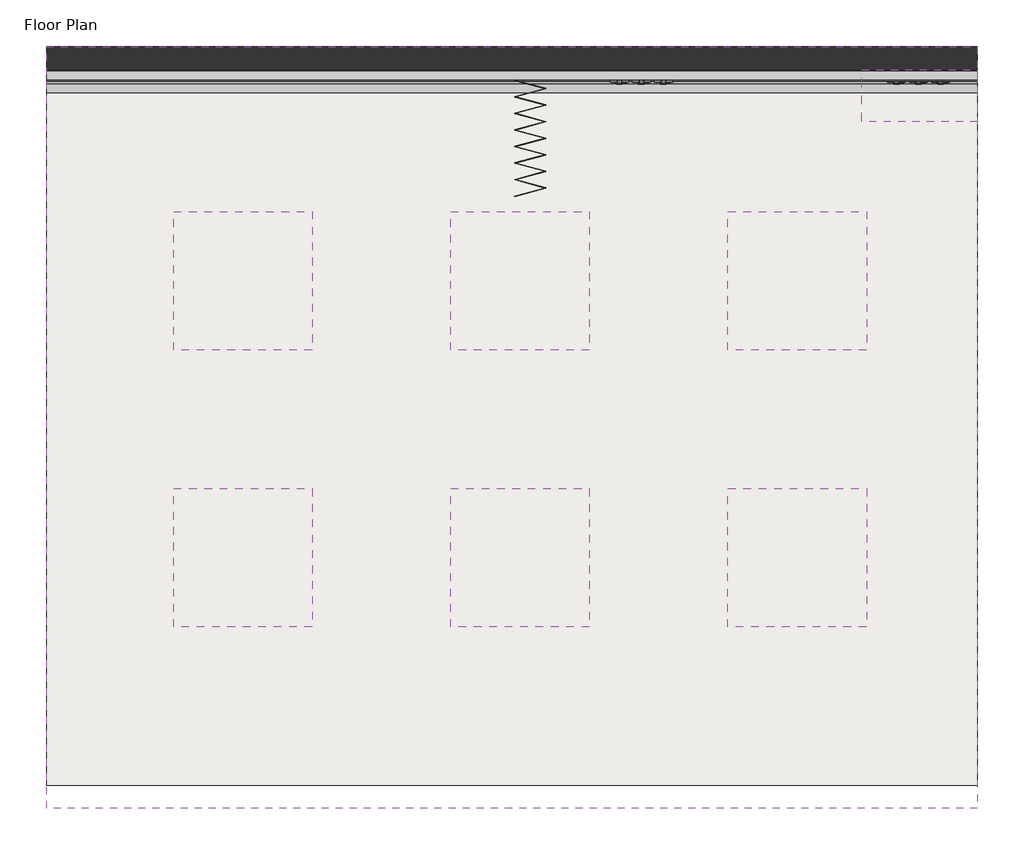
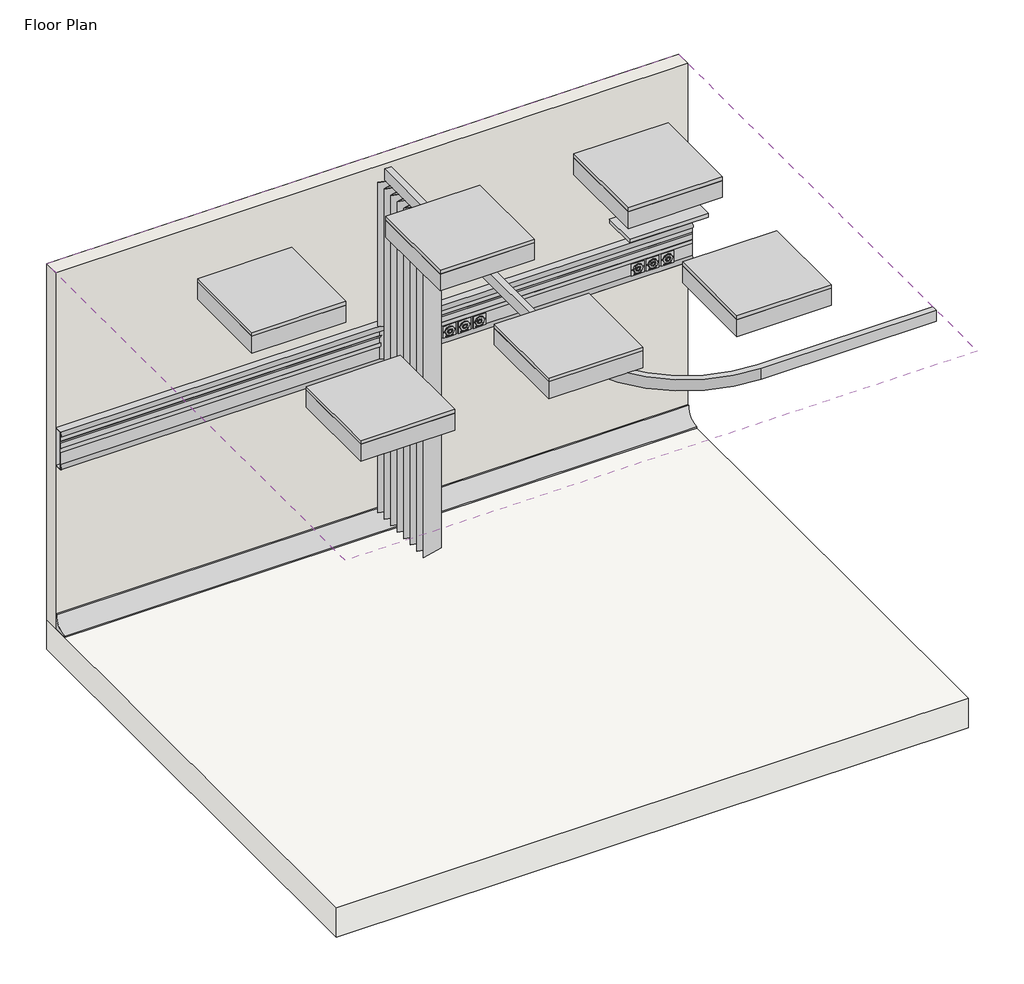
# One storey, incomplete: 9 proxies, 6 light fixtures, 1 covering, 1 furniture element, 1 slab, 1 wall.
"""IFC4 building model written with IfcOpenShell, lengths in millimetres."""

import ifcopenshell
import ifcopenshell.guid

model = None  # the IFC model being written
_history = None  # IfcOwnerHistory: only IFC2X3 demands one
_inside = {}  # id of a spatial element -> (the spatial element, [elements in it])
_under = {}  # id of a project, library or spatial element -> (it, [spatial elements below it])
_declared = {}  # id of a project -> (the project, [libraries it declares])
_typed = {}  # id of a type object -> (the type object, [elements of that type])
_made_of = {}  # id of a material, layer set ... -> (it, [elements and type objects made of it])


def new_model(schema):
    """Start an empty IFC model of exactly this schema.

    Asked for "IFC4X3", IfcOpenShell would pick the latest addendum, in which some entities
    have other attributes; the version numbers below select the first issue.
    IFC2X3 requires an IfcOwnerHistory on every rooted entity: one is made here for all.
    """
    global model, _history
    if schema == "IFC4X3":
        model = ifcopenshell.file(schema_version=(4, 3, 0, 0))
    else:
        model = ifcopenshell.file(schema=schema)
    _inside.clear()
    _under.clear()
    _declared.clear()
    _typed.clear()
    _made_of.clear()
    _history = None
    if model.schema == "IFC2X3":
        org = make("IfcOrganization", Name="unknown")
        user = make(
            "IfcPersonAndOrganization",
            ThePerson=make("IfcPerson", FamilyName="unknown"),
            TheOrganization=org,
        )
        app = make(
            "IfcApplication",
            ApplicationDeveloper=org,
            Version="unknown",
            ApplicationFullName="unknown",
            ApplicationIdentifier="unknown",
        )
        _history = make(
            "IfcOwnerHistory",
            OwningUser=user,
            OwningApplication=app,
            ChangeAction="ADDED",
            CreationDate=0,
        )
    return model


def make(cls, **values):
    """One entity of the class cls with the attributes given. An attribute that is None is left unset."""
    return model.create_entity(
        cls, **{name: value for name, value in values.items() if value is not None}
    )


def rooted(cls, **values):
    """An entity with a GlobalId (a new one), such as an element, a storey or a relation."""
    return make(cls, GlobalId=ifcopenshell.guid.new(), OwnerHistory=_history, **values)


def si_unit(unit_type, name, prefix=None):
    """IfcSIUnit, for example si_unit("LENGTHUNIT", "METRE", prefix="MILLI")."""
    return make("IfcSIUnit", UnitType=unit_type, Prefix=prefix, Name=name)


def assignment(units):
    """IfcUnitAssignment: the units of a project."""
    return None if units is None else make("IfcUnitAssignment", Units=units)


def point(xyz):
    """IfcCartesianPoint."""
    return None if xyz is None else make("IfcCartesianPoint", Coordinates=xyz)


def direction(xyz):
    """IfcDirection."""
    return None if xyz is None else make("IfcDirection", DirectionRatios=xyz)


def frame(location, z_axis=None, x_axis=None):
    """IfcAxis2Placement3D, a coordinate frame: its origin and axes. An axis left out is left unset."""
    return make(
        "IfcAxis2Placement3D",
        Location=point(location),
        Axis=direction(z_axis),
        RefDirection=direction(x_axis),
    )


def frame_2d(location, x_axis=None):
    """IfcAxis2Placement2D, a coordinate frame in the plane: its origin and x axis."""
    return make(
        "IfcAxis2Placement2D", Location=point(location), RefDirection=direction(x_axis)
    )


def origin():
    """The frame at (0, 0, 0) with its axes left unset."""
    return frame((0.0, 0.0, 0.0))


def place(relative_to, where):
    """IfcLocalPlacement: puts the frame where relative to a parent placement (None: the world)."""
    return make(
        "IfcLocalPlacement", PlacementRelTo=relative_to, RelativePlacement=where
    )


def context(
    kind, dimensions, precision=None, world=None, true_north=None, identifier=None
):
    """IfcGeometricRepresentationContext, for example the 3D "Model" context."""
    return make(
        "IfcGeometricRepresentationContext",
        ContextIdentifier=identifier,
        ContextType=kind,
        CoordinateSpaceDimension=dimensions,
        Precision=precision,
        WorldCoordinateSystem=world,
        TrueNorth=true_north,
    )


def project(units=None, contexts=None):
    """IfcProject with its units and contexts."""
    return rooted(
        "IfcProject",
        Name="project",
        RepresentationContexts=contexts,
        UnitsInContext=assignment(units),
    )


def spatial(cls, under=None, at=None, **own):
    """A site, building, storey or space (cls), placed at a placement, below another one or the project."""
    s = rooted(cls, ObjectPlacement=at, **own)
    if under is not None:
        _under.setdefault(under.id(), (under, []))[1].append(s)
    return s


def polyline(points):
    """IfcPolyline through the points."""
    return make("IfcPolyline", Points=[point(p) for p in points])


def circle_curve(where, radius):
    """IfcCircle in the frame where."""
    return make("IfcCircle", Position=where, Radius=radius)


def trimmed(basis, trim1, trim2, sense, master):
    """IfcTrimmedCurve: the piece of a basis curve between two trims."""
    return make(
        "IfcTrimmedCurve",
        BasisCurve=basis,
        Trim1=trim1,
        Trim2=trim2,
        SenseAgreement=sense,
        MasterRepresentation=master,
    )


def segment(curve, same_sense, transition):
    """IfcCompositeCurveSegment."""
    return make(
        "IfcCompositeCurveSegment",
        Transition=transition,
        SameSense=same_sense,
        ParentCurve=curve,
    )


def composite_curve(segments, self_intersect=None):
    """IfcCompositeCurve: segments joined end to end."""
    return make("IfcCompositeCurve", Segments=segments, SelfIntersect=self_intersect)


def outline(outer, holes=None, kind="AREA"):
    """IfcArbitraryClosedProfileDef: a profile drawn as a closed curve; with holes, ...WithVoids."""
    if holes is None:
        return make("IfcArbitraryClosedProfileDef", ProfileType=kind, OuterCurve=outer)
    return make(
        "IfcArbitraryProfileDefWithVoids",
        ProfileType=kind,
        OuterCurve=outer,
        InnerCurves=holes,
    )


def extrude(swept, where, along, depth):
    """IfcExtrudedAreaSolid: the profile swept, set in the frame where, extruded along a direction by depth."""
    return make(
        "IfcExtrudedAreaSolid",
        SweptArea=swept,
        Position=where,
        ExtrudedDirection=direction(along),
        Depth=depth,
    )


def faces_of(points, faces, orient=None, outer=None):
    """IfcFace entities. A face is a list of loops; a loop is a list of indices into points, from 0.

    orient and outer hold one flag for each loop. By default every Orientation is true, the
    first loop of a face is its IfcFaceOuterBound and the others are IfcFaceBound.
    """
    made = []
    for i, loops in enumerate(faces):
        bounds = []
        for j, loop in enumerate(loops):
            is_outer = j == 0 if outer is None else outer[i][j]
            bounds.append(
                make(
                    "IfcFaceOuterBound" if is_outer else "IfcFaceBound",
                    Bound=make("IfcPolyLoop", Polygon=[points[k] for k in loop]),
                    Orientation=True if orient is None else orient[i][j],
                )
            )
        made.append(make("IfcFace", Bounds=bounds))
    return made


def faceted_brep(points, faces, orient=None, outer=None, voids=None):
    """IfcFacetedBrep: a solid bounded by flat faces; with voids (closed shells), ...WithVoids."""
    shared = [point(p) for p in points]
    hull = make("IfcClosedShell", CfsFaces=faces_of(shared, faces, orient, outer))
    if voids is None:
        return make("IfcFacetedBrep", Outer=hull)
    return make(
        "IfcFacetedBrepWithVoids",
        Outer=hull,
        Voids=[
            make(cls, CfsFaces=faces_of(shared, fs, o, b)) for cls, fs, o, b in voids
        ],
    )


def shape(context_of_items, identifier, shape_type, items):
    """IfcShapeRepresentation: the items that make up one representation, for example the "Body"."""
    return make(
        "IfcShapeRepresentation",
        ContextOfItems=context_of_items,
        RepresentationIdentifier=identifier,
        RepresentationType=shape_type,
        Items=items,
    )


def source(mapping_origin, context_of_items, identifier, shape_type, items):
    """IfcRepresentationMap: a shape defined once, which mapped items show again and again."""
    return make(
        "IfcRepresentationMap",
        MappingOrigin=mapping_origin,
        MappedRepresentation=shape(context_of_items, identifier, shape_type, items),
    )


def transform(
    local_origin,
    x_axis=None,
    y_axis=None,
    z_axis=None,
    scale=None,
    scale2=None,
    scale3=None,
    uniform=True,
):
    """IfcCartesianTransformationOperator3D, or its non-uniform kind. x_axis, y_axis, z_axis: its Axis1, 2, 3."""
    if uniform:
        return make(
            "IfcCartesianTransformationOperator3D",
            Axis1=direction(x_axis),
            Axis2=direction(y_axis),
            LocalOrigin=point(local_origin),
            Scale=scale,
            Axis3=direction(z_axis),
        )
    return make(
        "IfcCartesianTransformationOperator3DnonUniform",
        Axis1=direction(x_axis),
        Axis2=direction(y_axis),
        LocalOrigin=point(local_origin),
        Scale=scale,
        Axis3=direction(z_axis),
        Scale2=scale2,
        Scale3=scale3,
    )


def mapped(mapping_source, mapping_target):
    """IfcMappedItem: shows the shape of a source again, moved by a transform."""
    return make(
        "IfcMappedItem", MappingSource=mapping_source, MappingTarget=mapping_target
    )


def made_of(thing, what):
    """Note that an element or type object is made of a material, layer set ...; save() writes the relation."""
    if what is not None:
        _made_of.setdefault(what.id(), (what, []))[1].append(thing)
    return thing


def element(
    cls,
    number,
    at=None,
    inside=None,
    cuts=None,
    type_object=None,
    material=None,
    context=None,
    identifier="Body",
    shape_type=None,
    held_by="IfcProductDefinitionShape",
    body=None,
    shapes=None,
    **own,
):
    """One element of the class cls, such as IfcWall. Its Tag is "e" and its number.

    at: its placement. inside: the storey or other place that contains it. cuts: it is an
    opening in that element (IfcRelVoidsElement). A single representation is given by context,
    identifier, shape_type and body (its items); several are given by shapes. held_by: the class
    of the entity that holds the representations. save() writes the other relations.
    """
    e = rooted(cls, Tag="e%d" % number, ObjectPlacement=at, **own)
    if body is not None:
        shapes = [shape(context, identifier, shape_type, body)]
    if shapes is not None:
        e.Representation = make(held_by, Representations=shapes)
    if inside is not None:
        _inside.setdefault(inside.id(), (inside, []))[1].append(e)
    if cuts is not None:
        rooted(
            "IfcRelVoidsElement", RelatingBuildingElement=cuts, RelatedOpeningElement=e
        )
    if type_object is not None:
        _typed.setdefault(type_object.id(), (type_object, []))[1].append(e)
    return made_of(e, material)


def aggregate(whole, parts):
    """IfcRelAggregates: a whole, such as a stair, and the parts it consists of."""
    return rooted("IfcRelAggregates", RelatingObject=whole, RelatedObjects=parts)


def save(model, path):
    """Write the relations noted so far, then the file.

    IfcRelAggregates (storeys below a building ...), IfcRelContainedInSpatialStructure (elements
    in a storey), IfcRelDefinesByType, IfcRelAssociatesMaterial and IfcRelDeclares: one each for
    every whole, place, type object, material and project.
    """
    for whole, parts in _under.values():
        aggregate(whole, parts)
    for where, things in _inside.values():
        rooted(
            "IfcRelContainedInSpatialStructure",
            RelatedElements=things,
            RelatingStructure=where,
        )
    for kind, things in _typed.values():
        rooted("IfcRelDefinesByType", RelatedObjects=things, RelatingType=kind)
    for what, things in _made_of.values():
        rooted("IfcRelAssociatesMaterial", RelatedObjects=things, RelatingMaterial=what)
    for by, libraries in _declared.values():
        rooted("IfcRelDeclares", RelatingContext=by, RelatedDefinitions=libraries)
    model.write(path)


def generic_models_0edea333(model_context):
    return source(origin(), model_context, "Body", "SweptSolid", [
        extrude(outline(polyline([(4029.4521507, 2.0), (4029.4521507, 0.0), (0.0, 0.0), (0.0, 2.0), (4029.4521507, 2.0)])), frame((0.0, 0.0, 182.5), z_axis=(0.0, 0.0, 1.0), x_axis=(1.0, 0.0, 0.0)), (0.0, 0.0, 1.0), 10.0),
        extrude(outline(polyline([(4029.4521507, 2.0), (4029.4521507, 0.0), (0.0, 0.0), (0.0, 2.0), (4029.4521507, 2.0)])), frame((0.0, 0.0, 117.5483443), z_axis=(0.0, 0.0, 1.0), x_axis=(1.0, 0.0, 0.0)), (0.0, 0.0, 1.0), 25.0),
        extrude(outline(composite_curve([segment(polyline([(0.0, 220.0), (0.0, 255.0)]), True, "CONTINUOUS"), segment(trimmed(circle_curve(frame_2d((-9.7819278, 237.5)), 20.0483443), [point((0.0, 255.0))], [point((0.0, 220.0))], False, "CARTESIAN"), True, "CONTINUOUS")], self_intersect=False)), frame((0.0, 0.0, 0.0), z_axis=(1.0, 0.0, 0.0), x_axis=(0.0, 1.0, 0.0)), (0.0, 0.0, 1.0), 4029.4521507),
        extrude(outline(composite_curve([segment(polyline([(0.0, 0.0), (0.0, 35.0)]), True, "CONTINUOUS"), segment(trimmed(circle_curve(frame_2d((-9.7819278, 17.5)), 20.0483443), [point((0.0, 35.0))], [point((0.0, 0.0))], False, "CARTESIAN"), True, "CONTINUOUS")], self_intersect=False)), frame((0.0, 0.0, 0.0), z_axis=(1.0, 0.0, 0.0), x_axis=(0.0, 1.0, 0.0)), (0.0, 0.0, 1.0), 4029.4521507),
        extrude(outline(polyline([(0.0, 0.0), (-50.0, 0.0), (-50.0, 255.0), (0.0, 255.0), (0.0, 0.0)]), holes=[polyline([(-45.0, 250.0), (-45.0, 5.0), (-5.0, 5.0), (-5.0, 250.0), (-45.0, 250.0)])]), frame((0.0, 0.0, 0.0), z_axis=(1.0, 0.0, 0.0), x_axis=(0.0, 1.0, 0.0)), (0.0, 0.0, 1.0), 4030.0),
    ])


def type_1_1f014aee(model_context):
    return source(origin(), model_context, "Body", "SweptSolid", [
        extrude(outline(polyline([(375.0, 50.0), (-125.0, 50.0), (-125.0, 275.0), (375.0, 275.0), (375.0, 50.0)])), frame((0.0, 0.0, 1500.0), z_axis=(0.0, 0.0, 1.0), x_axis=(1.0, 0.0, 0.0)), (0.0, 0.0, 1.0), 25.0),
    ])


def type_1_e4ce6e86(model_context):
    return source(origin(), model_context, "Body", "SweptSolid", [
        extrude(outline(polyline([(1136.6511743, 148.6914872), (1144.0357897, 148.6914872), (1144.0357897, 145.8735785), (1143.8185421, 144.4934703), (1143.1505733, 143.6785665), (1142.2058618, 143.3837948), (1141.3431815, 143.6316915), (1140.6896358, 144.38079), (1140.0009339, 143.4712347), (1138.8524964, 143.1530256), (1137.8600084, 143.3702732), (1137.1532776, 143.9084343), (1136.7782776, 144.7116194), (1136.6511743, 145.8952131), (1136.6511743, 148.6914872)]), holes=[polyline([(1141.0357897, 147.7684102), (1141.0357897, 146.0827131), (1141.1151166, 145.0983381), (1143.1127127, 146.2107179), (1143.1127127, 147.7684102), (1141.0357897, 147.7684102)]), polyline([(1137.5742512, 147.7684102), (1137.5742512, 145.8753814), (1140.1127127, 145.9655256), (1140.1127127, 147.7684102), (1137.5742512, 147.7684102)])]), frame((0.0, 105.0, 0.0), z_axis=(0.0, 1.0, 0.0), x_axis=(0.0, 0.0, 1.0)), (0.0, 0.0, 1.0), 1.0),
        extrude(outline(polyline([(140.8453333, 106.0), (141.7684102, 106.0), (141.7684102, 105.0), (140.8453333, 105.0), (140.8453333, 106.0)])), frame((0.0, 0.0, 1136.6511743), z_axis=(0.0, 0.0, 1.0), x_axis=(1.0, 0.0, 0.0)), (0.0, 0.0, 1.0), 7.3846154),
        extrude(outline(polyline([(1136.6511743, 138.9991795), (1144.0357897, 138.9991795), (1144.0357897, 137.4162468), (1138.8308618, 135.9018237), (1137.7437223, 135.5953333), (1138.921006, 135.2654054), (1144.0357897, 133.7798285), (1144.0357897, 132.1914872), (1136.6511743, 132.1914872), (1136.6511743, 133.1145641), (1143.1127127, 133.1145641), (1136.6511743, 134.9697323), (1136.6511743, 136.2191314), (1143.1127127, 138.0761025), (1136.6511743, 138.0761025), (1136.6511743, 138.9991795)])), frame((0.0, 105.0, 0.0), z_axis=(0.0, 1.0, 0.0), x_axis=(0.0, 0.0, 1.0)), (0.0, 0.0, 1.0), 1.0),
        extrude(outline(polyline([(1136.6511743, 130.5761025), (1144.0357897, 130.5761025), (1144.0357897, 129.6530256), (1141.0357897, 129.6530256), (1141.0357897, 125.7299487), (1144.0357897, 125.7299487), (1144.0357897, 124.8068718), (1136.6511743, 124.8068718), (1136.6511743, 125.7299487), (1140.1127127, 125.7299487), (1140.1127127, 129.6530256), (1136.6511743, 129.6530256), (1136.6511743, 130.5761025)])), frame((0.0, 105.0, 0.0), z_axis=(0.0, 1.0, 0.0), x_axis=(0.0, 0.0, 1.0)), (0.0, 0.0, 1.0), 1.0),
        extrude(outline(polyline([(1138.2665589, 119.5099968), (1138.1511743, 118.6049487), (1136.9594675, 119.451403), (1136.5357897, 121.0280256), (1137.2668594, 122.944492), (1139.3176406, 123.6530256), (1141.43603, 122.9372804), (1142.1896358, 121.0803093), (1141.4378329, 119.2765232), (1139.3230493, 118.5761025), (1139.0742512, 122.7299487), (1137.8753329, 122.1989992), (1137.4588666, 121.0099968), (1137.6517752, 120.1049487), (1138.2665589, 119.5099968)]), holes=[polyline([(1139.9973281, 122.7299487), (1139.9973281, 119.4991795), (1140.8338666, 119.8687708), (1141.2665589, 121.083915), (1140.9213065, 122.2206338), (1139.9973281, 122.7299487)])]), frame((0.0, 105.0, 0.0), z_axis=(0.0, 1.0, 0.0), x_axis=(0.0, 0.0, 1.0)), (0.0, 0.0, 1.0), 1.0),
        extrude(outline(polyline([(1136.9973281, 114.0761025), (1136.717881, 115.0866194), (1136.5357897, 116.0755016), (1136.9738906, 117.4159463), (1138.093482, 117.8837948), (1139.795405, 115.7978573), (1140.1127127, 114.1968958), (1141.2665589, 115.4661266), (1141.0889748, 116.4000208), (1140.5742512, 117.7684102), (1141.4756935, 117.3690713), (1142.0039387, 116.5649847), (1142.1896358, 115.3471362), (1142.0255733, 114.2284463), (1140.1794195, 113.2684102), (1139.030982, 113.2684102), (1137.4273161, 113.2215352), (1136.6511743, 113.037641), (1136.9973281, 114.0761025)]), holes=[polyline([(1138.7019555, 114.2672083), (1138.9065829, 115.6806698), (1138.7569435, 116.4748405), (1137.4588666, 115.8789872), (1137.6797199, 114.9450929), (1138.7019555, 114.2672083)])]), frame((0.0, 105.0, 0.0), z_axis=(0.0, 1.0, 0.0), x_axis=(0.0, 0.0, 1.0)), (0.0, 0.0, 1.0), 1.0),
        extrude(outline(polyline([(111.0761025, 106.0), (111.9991795, 106.0), (111.9991795, 105.0), (111.0761025, 105.0), (111.0761025, 106.0)])), frame((0.0, 0.0, 1136.6511743), z_axis=(0.0, 0.0, 1.0), x_axis=(1.0, 0.0, 0.0)), (0.0, 0.0, 1.0), 7.3846154),
        extrude(outline(polyline([(1137.7933017, 108.1914872), (1136.624131, 107.6145641), (1136.6890348, 109.0785064), (1138.1385541, 109.5761025), (1141.1511743, 109.5761025), (1142.0742512, 110.2684102), (1143.3921598, 109.5761025), (1143.9348281, 108.6530256), (1142.0742512, 108.6530256), (1142.0742512, 107.7299487), (1141.1511743, 107.7299487), (1141.1511743, 108.6530256), (1137.7933017, 108.1914872)])), frame((0.0, 105.0, 0.0), z_axis=(0.0, 1.0, 0.0), x_axis=(0.0, 0.0, 1.0)), (0.0, 0.0, 1.0), 1.0),
        extrude(outline(polyline([(1136.6511743, 106.8068718), (1144.0357897, 106.8068718), (1144.0357897, 105.8837948), (1141.3206454, 105.8837948), (1142.1896358, 104.2774247), (1141.9525565, 103.240766), (1141.2972079, 102.6115593), (1140.0838666, 102.4222564), (1136.6511743, 102.4222564), (1136.6511743, 103.3453333), (1139.9883137, 103.3453333), (1140.9618714, 103.6392035), (1141.2665589, 104.4721362), (1141.06103, 105.2284463), (1139.5321839, 105.8837948), (1136.6511743, 105.8837948), (1136.6511743, 106.8068718)])), frame((0.0, 105.0, 0.0), z_axis=(0.0, 1.0, 0.0), x_axis=(0.0, 0.0, 1.0)), (0.0, 0.0, 1.0), 1.0),
        extrude(outline(composite_curve([segment(trimmed(circle_curve(frame_2d((1175.0229233, 125.0)), 29.0), [point((1196.3519765, 144.6487021))], [point((1155.3742213, 103.6709469))], False, "CARTESIAN"), True, "CONTINUOUS"), segment(polyline([(1155.3742213, 103.6709469), (1164.2261274, 112.522853)]), True, "CONTINUOUS"), segment(trimmed(circle_curve(frame_2d((1175.0229233, 125.0)), 16.5), [point((1164.2261274, 112.522853))], [point((1187.5000703, 135.7967959))], True, "CARTESIAN"), True, "CONTINUOUS"), segment(polyline([(1187.5000703, 135.7967959), (1196.3519765, 144.6487021)]), True, "CONTINUOUS")], self_intersect=False)), frame((0.0, 110.0, 0.0), z_axis=(0.0, 1.0, 0.0), x_axis=(0.0, 0.0, 1.0)), (0.0, 0.0, 1.0), 1.0),
        extrude(outline(composite_curve([segment(trimmed(circle_curve(frame_2d((1175.0229233, 125.0625)), 12.5), [point((1175.0229233, 137.5625))], [point((1175.0229233, 112.5625))], False, "CARTESIAN"), True, "CONTINUOUS"), segment(trimmed(circle_curve(frame_2d((1175.0229233, 125.0625)), 12.5), [point((1175.0229233, 112.5625))], [point((1175.0229233, 137.5625))], False, "CARTESIAN"), True, "CONTINUOUS")], self_intersect=False), holes=[composite_curve([segment(trimmed(circle_curve(frame_2d((1175.0229233, 125.0625)), 7.5), [point((1175.0229233, 132.5625))], [point((1175.0229233, 117.5625))], True, "CARTESIAN"), True, "CONTINUOUS"), segment(trimmed(circle_curve(frame_2d((1175.0229233, 125.0625)), 7.5), [point((1175.0229233, 117.5625))], [point((1175.0229233, 132.5625))], True, "CARTESIAN"), True, "CONTINUOUS")], self_intersect=False)]), frame((0.0, 95.0, 0.0), z_axis=(0.0, 1.0, 0.0), x_axis=(0.0, 0.0, 1.0)), (0.0, 0.0, 1.0), 17.5),
        extrude(outline(composite_curve([segment(trimmed(circle_curve(frame_2d((1175.0229233, 125.0)), 29.0), [point((1175.0229233, 154.0))], [point((1175.0229233, 96.0))], False, "CARTESIAN"), True, "CONTINUOUS"), segment(trimmed(circle_curve(frame_2d((1175.0229233, 125.0)), 29.0), [point((1175.0229233, 96.0))], [point((1175.0229233, 154.0))], False, "CARTESIAN"), True, "CONTINUOUS")], self_intersect=False), holes=[composite_curve([segment(trimmed(circle_curve(frame_2d((1175.0229233, 125.0)), 16.5), [point((1175.0229233, 141.5))], [point((1175.0229233, 108.5))], True, "CARTESIAN"), True, "CONTINUOUS"), segment(trimmed(circle_curve(frame_2d((1175.0229233, 125.0)), 16.5), [point((1175.0229233, 108.5))], [point((1175.0229233, 141.5))], True, "CARTESIAN"), True, "CONTINUOUS")], self_intersect=False)]), frame((0.0, 95.0, 0.0), z_axis=(0.0, 1.0, 0.0), x_axis=(0.0, 0.0, 1.0)), (0.0, 0.0, 1.0), 15.0),
        extrude(outline(polyline([(1215.0229233, 85.0), (1135.0229233, 85.0), (1135.0229233, 165.0), (1215.0229233, 165.0), (1215.0229233, 85.0)]), holes=[composite_curve([segment(trimmed(circle_curve(frame_2d((1175.0229233, 125.0)), 30.0), [point((1175.0229233, 155.0))], [point((1175.0229233, 95.0))], True, "CARTESIAN"), True, "CONTINUOUS"), segment(trimmed(circle_curve(frame_2d((1175.0229233, 125.0)), 30.0), [point((1175.0229233, 95.0))], [point((1175.0229233, 155.0))], True, "CARTESIAN"), True, "CONTINUOUS")], self_intersect=False), composite_curve([segment(trimmed(circle_curve(frame_2d((1175.0229233, 90.0)), 2.5), [point((1175.0229233, 92.5))], [point((1175.0229233, 87.5))], True, "CARTESIAN"), True, "CONTINUOUS"), segment(trimmed(circle_curve(frame_2d((1175.0229233, 90.0)), 2.5), [point((1175.0229233, 87.5))], [point((1175.0229233, 92.5))], True, "CARTESIAN"), True, "CONTINUOUS")], self_intersect=False), composite_curve([segment(trimmed(circle_curve(frame_2d((1175.0229233, 160.0)), 2.5), [point((1175.0229233, 157.5))], [point((1175.0229233, 162.5))], True, "CARTESIAN"), True, "CONTINUOUS"), segment(trimmed(circle_curve(frame_2d((1175.0229233, 160.0)), 2.5), [point((1175.0229233, 162.5))], [point((1175.0229233, 157.5))], True, "CARTESIAN"), True, "CONTINUOUS")], self_intersect=False)]), frame((0.0, 95.0, 0.0), z_axis=(0.0, 1.0, 0.0), x_axis=(0.0, 0.0, 1.0)), (0.0, 0.0, 1.0), 10.0),
    ])


def furniture_3dd21fbf(model_context):
    return source(origin(), model_context, "Body", "SweptSolid", [
        extrude(outline(composite_curve([segment(trimmed(circle_curve(frame_2d((1860.0, 840.0)), 800.0), [point((1860.0, 40.0))], [point((2660.0, 840.0))], True, "CARTESIAN"), True, "CONTINUOUS"), segment(polyline([(2660.0, 840.0), (2660.0, 1957.2426086), (2700.0, 1957.2426086), (2700.0, 840.0)]), True, "CONTINUOUS"), segment(trimmed(circle_curve(frame_2d((1860.0, 840.0)), 840.0), [point((2700.0, 840.0))], [point((1860.0, 0.0))], False, "CARTESIAN"), True, "CONTINUOUS"), segment(polyline([(1860.0, 0.0), (0.0, 0.0), (0.0, 40.0), (1860.0, 40.0)]), True, "CONTINUOUS")], self_intersect=False)), frame((0.0, 0.0, 2325.0), z_axis=(0.0, 0.0, 1.0), x_axis=(1.0, 0.0, 0.0)), (0.0, 0.0, 1.0), 75.0),
        extrude(outline(polyline([(35.8630189, 88.8426086), (37.9335712, 88.8426086), (72.761314, -41.1362967), (107.5890567, 88.8426086), (109.659609, 88.8426086), (144.4873517, -41.1362967), (179.3150944, 88.8426086), (181.3856468, 88.8426086), (216.2133895, -41.1362967), (251.0411322, 88.8426086), (253.1116846, 88.8426086), (287.9394273, -41.1362967), (322.76717, 88.8426086), (324.8377223, 88.8426086), (359.665465, -41.1362967), (394.4932078, 88.8426086), (396.5637601, 88.8426086), (431.3915028, -41.1362967), (466.2192455, 88.8426086), (468.2897979, 88.8426086), (504.1528168, -45.0), (502.2209651, -45.5176381), (467.2545217, 84.9789053), (432.426779, -45.0), (430.3562266, -45.0), (395.5284839, 84.9789053), (360.7007412, -45.0), (358.6301889, -45.0), (323.8024462, 84.9789053), (288.9747035, -45.0), (286.9041511, -45.0), (252.0764084, 84.9789053), (217.2486657, -45.0), (215.1781133, -45.0), (180.3503706, 84.9789053), (145.5226279, -45.0), (143.4520755, -45.0), (108.6243328, 84.9789053), (73.7965901, -45.0), (71.7260378, -45.0), (36.8982951, 84.9789053), (1.9318517, -45.5176381), (0.0, -45.0), (35.8630189, 88.8426086)])), frame((0.0, 0.0, 100.0), z_axis=(0.0, 0.0, 1.0), x_axis=(1.0, 0.0, 0.0)), (0.0, 0.0, 1.0), 2225.0),
    ])


def light_fixture_600x600mm_2_lamps_e2767e77(model_context):
    return source(origin(), model_context, "Body", "SweptSolid", [
        extrude(outline(polyline([(251.0964984, 219.9340679), (251.0964984, -329.2659321), (-298.1035016, -329.2659321), (-298.1035016, 219.9340679), (251.0964984, 219.9340679)])), frame((0.0, 0.0, 2438.4), z_axis=(0.0, 0.0, 1.0), x_axis=(1.0, 0.0, 0.0)), (0.0, 0.0, 1.0), 6.35),
        extrude(outline(polyline([(276.4964984, 245.3340679), (276.4964984, -354.6659321), (-323.5035016, -354.6659321), (-323.5035016, 245.3340679), (276.4964984, 245.3340679)]), holes=[polyline([(251.0964984, 219.9340679), (-298.1035016, 219.9340679), (-298.1035016, -329.2659321), (251.0964984, -329.2659321), (251.0964984, 219.9340679)])]), frame((0.0, 0.0, 2438.4), z_axis=(0.0, 0.0, 1.0), x_axis=(1.0, 0.0, 0.0)), (0.0, 0.0, 1.0), 114.3),
        extrude(outline(polyline([(251.0964984, 220.3340679), (251.0964984, -329.2659322), (-298.5035016, -329.2659322), (-298.5035016, 220.3340679), (251.0964984, 220.3340679)])), frame((0.0, 0.0, 2438.4), z_axis=(0.0, 0.0, 1.0), x_axis=(1.0, 0.0, 0.0)), (0.0, 0.0, 1.0), 10.0),
        extrude(outline(polyline([(276.4964984, 245.3340679), (276.4964984, -354.6659321), (-323.5035016, -354.6659321), (-323.5035016, 245.3340679), (276.4964984, 245.3340679)])), frame((0.0, 0.0, 2552.7), z_axis=(0.0, 0.0, 1.0), x_axis=(1.0, 0.0, 0.0)), (0.0, 0.0, 1.0), 25.4),
    ])


model = new_model("IFC4")

# Units and contexts
model_context = context("Model", 3, world=origin())
ifc_project = project(units=[si_unit("LENGTHUNIT", "METRE", prefix="MILLI")], contexts=[model_context])

# Site, building, storey
site = spatial("IfcSite", under=ifc_project)
building = spatial("IfcBuilding", under=site)
storey = spatial("IfcBuildingStorey", under=building, Name="Floor Plan", Elevation=0.0)

# Proxies
placement = place(None, origin())
element("IfcBuildingElementProxy", 1, Name="Wall Sweeps", at=placement, inside=storey, context=model_context, shape_type="SweptSolid", body=[
    extrude(outline(composite_curve([segment(polyline([(3415.0, 0.0), (3315.0, 0.0), (3315.0, 10.0)]), True, "CONTINUOUS"), segment(trimmed(circle_curve(frame_2d((3315.0, 100.0)), 90.0), [point((3315.0, 10.0))], [point((3405.0, 100.0))], True, "CARTESIAN"), True, "CONTINUOUS"), segment(polyline([(3405.0, 100.0), (3415.0, 100.0), (3415.0, 0.0)]), True, "CONTINUOUS")], self_intersect=False)), frame((-195.0, 0.0, 0.0), z_axis=(1.0, 0.0, 0.0), x_axis=(0.0, 1.0, 0.0)), (0.0, 0.0, 1.0), 4030.0),
])
generic_models_shape = generic_models_0edea333(model_context)
element("IfcBuildingElementProxy", 2, Name="BIMHealth-Dado_Double_Trunking-LOD2A-v1 : BIMHealth-Dado_Double_Trunking-LOD2A-v1", ObjectType="BIMHealth-Dado_Double_Trunking-LOD2A-v1 : BIMHealth-Dado_Double_Trunking-LOD2A-v1", at=placement, inside=storey, context=model_context, shape_type="MappedRepresentation", body=[
    mapped(generic_models_shape, transform((3835.0, 3365.0, 1100.0), x_axis=(-1.0, 0.0, 0.0), y_axis=(0.0, -1.0, 0.0), z_axis=(0.0, 0.0, 1.0))),
])
type_1_shape = type_1_1f014aee(model_context)
element("IfcBuildingElementProxy", 3, Name="BIMHealth-Suction_Pump_Shelf-LOD2A-v1 : Type 1", ObjectType="BIMHealth-Suction_Pump_Shelf-LOD2A-v1 : Type 1", at=placement, inside=storey, context=model_context, shape_type="MappedRepresentation", body=[
    mapped(type_1_shape, transform((3710.0, 3465.0, 0.0), x_axis=(-1.0, 0.0, 0.0), y_axis=(0.0, -1.0, 0.0), z_axis=(0.0, 0.0, 1.0))),
])
type_1_2_shape = type_1_e4ce6e86(model_context)
element("IfcBuildingElementProxy", 4, Name="BIMHealth-Medical_Gas_Outlets-LOD2A-v1 : Type 1", ObjectType="BIMHealth-Medical_Gas_Outlets-LOD2A-v1 : Type 1", at=placement, inside=storey, context=model_context, shape_type="MappedRepresentation", body=[
    mapped(type_1_2_shape, transform((2600.0, 3465.0, 0.0), x_axis=(-1.0, 0.0, 0.0), y_axis=(0.0, -1.0, 0.0), z_axis=(0.0, 0.0, 1.0))),
])
element("IfcBuildingElementProxy", 5, Name="BIMHealth-Medical_Gas_Outlets-LOD2A-v1 : Type 1", ObjectType="BIMHealth-Medical_Gas_Outlets-LOD2A-v1 : Type 1", at=placement, inside=storey, context=model_context, shape_type="MappedRepresentation", body=[
    mapped(type_1_2_shape, transform((2505.0, 3465.0, 0.0), x_axis=(-1.0, 0.0, 0.0), y_axis=(0.0, -1.0, 0.0), z_axis=(0.0, 0.0, 1.0))),
])
element("IfcBuildingElementProxy", 6, Name="BIMHealth-Medical_Gas_Outlets-LOD2A-v1 : Type 1", ObjectType="BIMHealth-Medical_Gas_Outlets-LOD2A-v1 : Type 1", at=placement, inside=storey, context=model_context, shape_type="MappedRepresentation", body=[
    mapped(type_1_2_shape, transform((2410.0, 3465.0, 0.0), x_axis=(-1.0, 0.0, 0.0), y_axis=(0.0, -1.0, 0.0), z_axis=(0.0, 0.0, 1.0))),
])
element("IfcBuildingElementProxy", 7, Name="BIMHealth-Medical_Gas_Outlets-LOD2A-v1 : Type 1", ObjectType="BIMHealth-Medical_Gas_Outlets-LOD2A-v1 : Type 1", at=placement, inside=storey, context=model_context, shape_type="MappedRepresentation", body=[
    mapped(type_1_2_shape, transform((3800.0, 3465.0, 0.0), x_axis=(-1.0, 0.0, 0.0), y_axis=(0.0, -1.0, 0.0), z_axis=(0.0, 0.0, 1.0))),
])
element("IfcBuildingElementProxy", 8, Name="BIMHealth-Medical_Gas_Outlets-LOD2A-v1 : Type 1", ObjectType="BIMHealth-Medical_Gas_Outlets-LOD2A-v1 : Type 1", at=placement, inside=storey, context=model_context, shape_type="MappedRepresentation", body=[
    mapped(type_1_2_shape, transform((3705.0, 3465.0, 0.0), x_axis=(-1.0, 0.0, 0.0), y_axis=(0.0, -1.0, 0.0), z_axis=(0.0, 0.0, 1.0))),
])
element("IfcBuildingElementProxy", 9, Name="BIMHealth-Medical_Gas_Outlets-LOD2A-v1 : Type 1", ObjectType="BIMHealth-Medical_Gas_Outlets-LOD2A-v1 : Type 1", at=placement, inside=storey, context=model_context, shape_type="MappedRepresentation", body=[
    mapped(type_1_2_shape, transform((3610.0, 3465.0, 0.0), x_axis=(-1.0, 0.0, 0.0), y_axis=(0.0, -1.0, 0.0), z_axis=(0.0, 0.0, 1.0))),
])

# Covering
element("IfcCovering", 10, ObjectType="BIMHealth - Generic Ceiling", at=placement, inside=storey, context=model_context, shape_type="SweptSolid", body=[
    extrude(outline(polyline([(3835.0, 3515.0), (3835.0, 215.0), (-195.0, 215.0), (-195.0, 3515.0), (3835.0, 3515.0)]), holes=[polyline([(955.0, 2800.0), (355.0, 2800.0), (355.0, 2200.0), (955.0, 2200.0), (955.0, 2800.0)]), polyline([(2155.0, 2800.0), (1555.0, 2800.0), (1555.0, 2200.0), (2155.0, 2200.0), (2155.0, 2800.0)]), polyline([(3355.0, 2800.0), (2755.0, 2800.0), (2755.0, 2200.0), (3355.0, 2200.0), (3355.0, 2800.0)]), polyline([(955.0, 1600.0), (355.0, 1600.0), (355.0, 1000.0), (955.0, 1000.0), (955.0, 1600.0)]), polyline([(2155.0, 1600.0), (1555.0, 1600.0), (1555.0, 1000.0), (2155.0, 1000.0), (2155.0, 1600.0)]), polyline([(3355.0, 1600.0), (2755.0, 1600.0), (2755.0, 1000.0), (3355.0, 1000.0), (3355.0, 1600.0)])]), frame((0.0, 0.0, 2400.0), z_axis=(0.0, 0.0, 1.0), x_axis=(1.0, 0.0, 0.0)), (0.0, 0.0, 1.0), 52.0),
])

# Furniture
furniture_shape = furniture_3dd21fbf(model_context)
element("IfcFurniture", 11, ObjectType="BIMHealth-Curtain_Resus-LOD2A-v1 : BIMHealth-Curtain_Resus-LOD2A-v1", at=placement, inside=storey, context=model_context, shape_type="MappedRepresentation", body=[
    mapped(furniture_shape, transform((1877.7573914, 3370.0, 0.0), x_axis=(0.0, -1.0, 0.0), y_axis=(1.0, 0.0, 0.0), z_axis=(0.0, 0.0, 1.0))),
])

# Light fixtures
light_fixture_600x600mm_2_lamps_shape = light_fixture_600x600mm_2_lamps_e2767e77(model_context)
element("IfcLightFixture", 12, ObjectType="BIMHealth-Light_Fitting-LOD2A-v1 : 600x600mm-2_Lamps", at=placement, inside=storey, context=model_context, shape_type="MappedRepresentation", body=[
    mapped(light_fixture_600x600mm_2_lamps_shape, transform((678.5035016, 2554.6659321, -38.4), x_axis=(1.0, 0.0, 0.0), y_axis=(0.0, 1.0, 0.0), z_axis=(0.0, 0.0, 1.0))),
])
element("IfcLightFixture", 13, ObjectType="BIMHealth-Light_Fitting-LOD2A-v1 : 600x600mm-2_Lamps", at=placement, inside=storey, context=model_context, shape_type="MappedRepresentation", body=[
    mapped(light_fixture_600x600mm_2_lamps_shape, transform((1878.5035016, 2554.6659321, -38.4), x_axis=(1.0, 0.0, 0.0), y_axis=(0.0, 1.0, 0.0), z_axis=(0.0, 0.0, 1.0))),
])
element("IfcLightFixture", 14, ObjectType="BIMHealth-Light_Fitting-LOD2A-v1 : 600x600mm-2_Lamps", at=placement, inside=storey, context=model_context, shape_type="MappedRepresentation", body=[
    mapped(light_fixture_600x600mm_2_lamps_shape, transform((3078.5035016, 2554.6659321, -38.4), x_axis=(1.0, 0.0, 0.0), y_axis=(0.0, 1.0, 0.0), z_axis=(0.0, 0.0, 1.0))),
])
element("IfcLightFixture", 15, ObjectType="BIMHealth-Light_Fitting-LOD2A-v1 : 600x600mm-2_Lamps", at=placement, inside=storey, context=model_context, shape_type="MappedRepresentation", body=[
    mapped(light_fixture_600x600mm_2_lamps_shape, transform((678.5035016, 1354.6659321, -38.4), x_axis=(1.0, 0.0, 0.0), y_axis=(0.0, 1.0, 0.0), z_axis=(0.0, 0.0, 1.0))),
])
element("IfcLightFixture", 16, ObjectType="BIMHealth-Light_Fitting-LOD2A-v1 : 600x600mm-2_Lamps", at=placement, inside=storey, context=model_context, shape_type="MappedRepresentation", body=[
    mapped(light_fixture_600x600mm_2_lamps_shape, transform((1878.5035016, 1354.6659321, -38.4), x_axis=(1.0, 0.0, 0.0), y_axis=(0.0, 1.0, 0.0), z_axis=(0.0, 0.0, 1.0))),
])
element("IfcLightFixture", 17, ObjectType="BIMHealth-Light_Fitting-LOD2A-v1 : 600x600mm-2_Lamps", at=placement, inside=storey, context=model_context, shape_type="MappedRepresentation", body=[
    mapped(light_fixture_600x600mm_2_lamps_shape, transform((3078.5035016, 1354.6659321, -38.4), x_axis=(1.0, 0.0, 0.0), y_axis=(0.0, 1.0, 0.0), z_axis=(0.0, 0.0, 1.0))),
])

# Slab
element("IfcSlab", 18, ObjectType="BIMHealth - Generic Floor", at=placement, inside=storey, context=model_context, shape_type="SweptSolid", body=[
    extrude(outline(polyline([(3835.0, 3515.0), (3835.0, 315.0), (-195.0, 315.0), (-195.0, 3515.0), (3835.0, 3515.0)])), frame((0.0, 0.0, -200.0), z_axis=(0.0, 0.0, 1.0), x_axis=(1.0, 0.0, 0.0)), (0.0, 0.0, 1.0), 200.0),
])

# Wall
element("IfcWall", 19, ObjectType="BIMHealth - Generic Wall", at=placement, inside=storey, context=model_context, shape_type="Brep", body=[
    faceted_brep([(-195.0, 3415.0, 0.0), (3835.0, 3415.0, 0.0), (3835.0, 3415.0, 100.0), (3835.0, 3415.0, 2400.0), (-195.0, 3415.0, 2400.0), (-195.0, 3415.0, 100.0), (-195.0, 3515.0, 0.0), (-195.0, 3515.0, 2400.0), (3835.0, 3515.0, 2400.0), (3835.0, 3515.0, 0.0)], [[[0, 1, 2, 3, 4, 5]], [[6, 7, 8, 9]], [[1, 0, 6, 9]], [[3, 2, 1, 9, 8]], [[4, 3, 8, 7]], [[0, 5, 4, 7, 6]]]),
])

save(model, "model.ifc")
